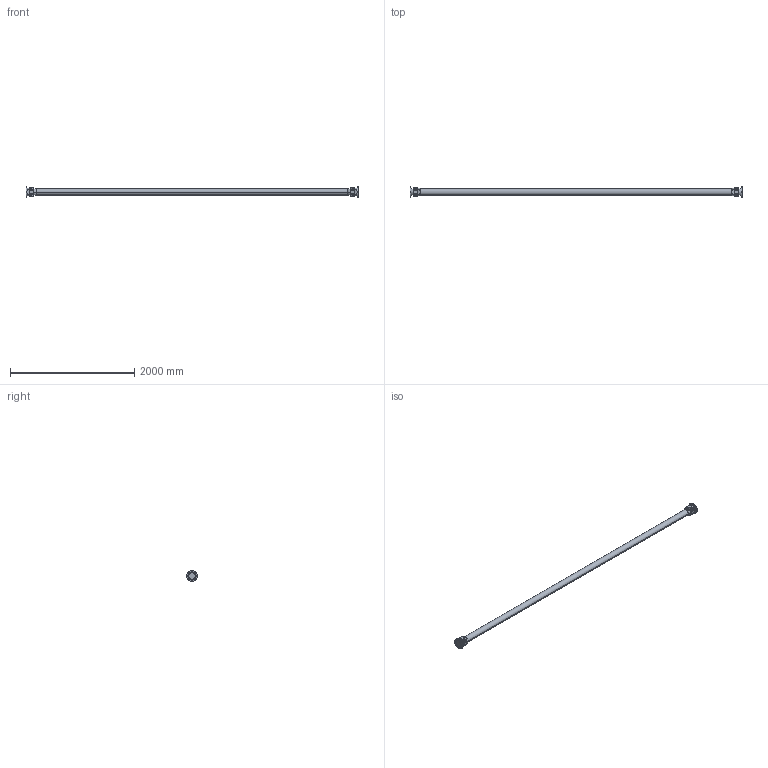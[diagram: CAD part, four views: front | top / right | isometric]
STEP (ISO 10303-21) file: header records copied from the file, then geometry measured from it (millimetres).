
FILE_DESCRIPTION(('Creo Elements/Direct Modeling STEP Export'),'2;1');
FILE_NAME('Gelenkwelle_0_117_111_X-110_S-5350.stp','2014-10-17T10:33:37',(''),(''),'PTC Creo Elements/Direct Modeling STEP processor for AP214 (Solid Model)','PTC Creo Elements/Direct Modeling 19.0 09-May-2014 (C) Parametric Technology GmbH','');
FILE_SCHEMA(('AUTOMOTIVE_DESIGN { 1 0 10303 214 1 1 1 1 }'));
Length unit declared in the file: millimetre
Products named in the file (3): Welle; Flansch_1.1; Gelenkwelle_0_117_111_X-110_S-5350
Assembly tree (3 placements, depth 2):
  Gelenkwelle_0_117_111_X-110_S-5350
    Flansch_1.1  x2
    Welle
Bounding box: 5350 x 180 x 180 mm (x, y, z)
Volume: 43119144.1 mm3; surface area: 1916571.7 mm2
Topology: 3 solids, 3 shells, 156 faces, 446 edges, 292 vertices
Faces by surface type: cylinder 94, plane 54, torus 8
Entity records: 8295 total; most frequent: CARTESIAN_POINT 5668, ORIENTED_EDGE 600, DIRECTION 486, EDGE_CURVE 300, AXIS2_PLACEMENT_3D 197, VERTEX_POINT 196, EDGE_LOOP 122, FACE_OUTER_BOUND 104
